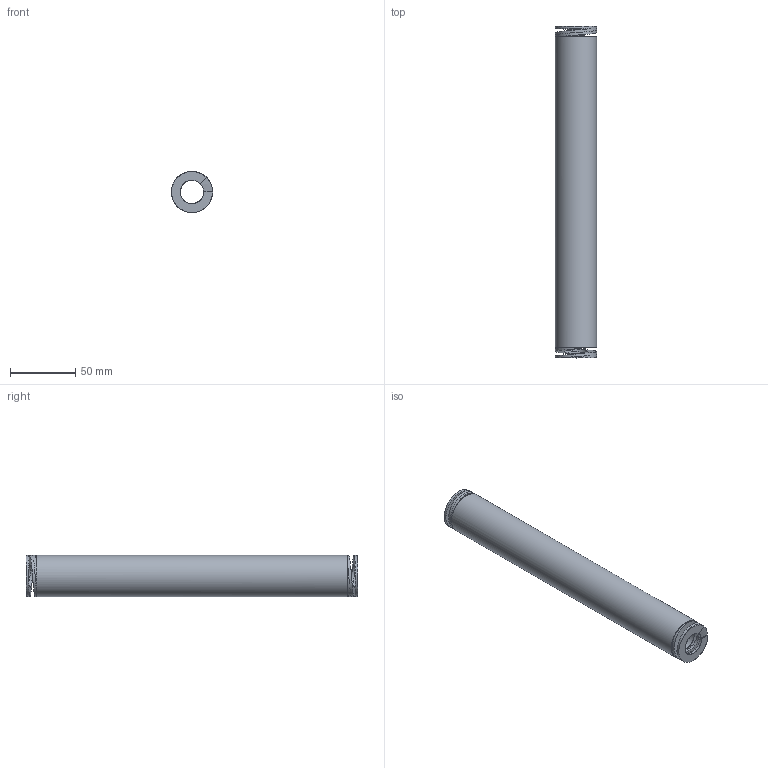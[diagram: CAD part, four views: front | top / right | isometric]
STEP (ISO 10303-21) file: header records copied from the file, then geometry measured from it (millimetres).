
FILE_DESCRIPTION(/* description */ ('Max 37,5% | 95.3 | 2116'),/* implementation_level */ '2;1');
FILE_NAME(/* name */ '2S32252.step',/* time_stamp */ '2026-10-07T11:31:58+02:00',/* author */ ('2S'),/* organization */ ('6,8x4,0 prostokatny'),/* preprocessor_version */ 'ST-DEVELOPER v20.1',/* originating_system */ 'Autodesk Inventor 2026',/* authorisation */ '22.2');
FILE_SCHEMA (('AUTOMOTIVE_DESIGN { 1 0 10303 214 3 1 1 }'));
Length unit declared in the file: millimetre
Products named in the file (1): 2S32252
Bounding box: 31.51 x 254 x 31.51 mm (x, y, z)
Volume: 130828.2 mm3; surface area: 42189.2 mm2
Topology: 1 solids, 1 shells, 22 faces, 68 edges, 42 vertices
Faces by surface type: bspline 14, plane 6, cylinder 2
Full cylindrical faces by diameter (mm): 17.899 x1, 31.501 x1
Entity records: 2834 total; most frequent: CARTESIAN_POINT 2358, ORIENTED_EDGE 120, EDGE_CURVE 60, B_SPLINE_CURVE_WITH_KNOTS 48, VERTEX_POINT 38, DIRECTION 34, EDGE_LOOP 26, FACE_OUTER_BOUND 22
